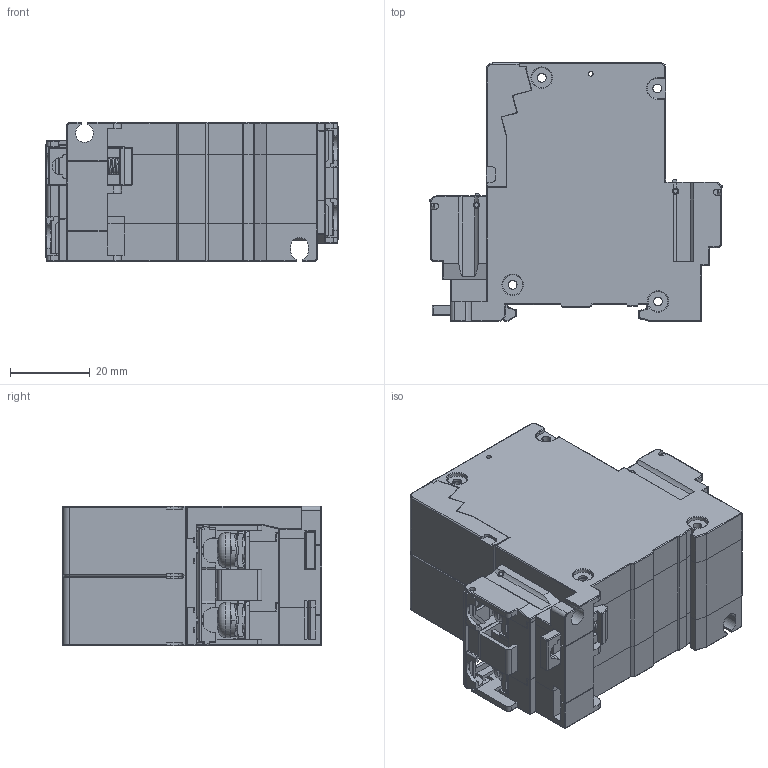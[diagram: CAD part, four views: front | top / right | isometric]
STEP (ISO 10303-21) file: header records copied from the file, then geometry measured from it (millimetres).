
FILE_DESCRIPTION (( 'STEP AP203' ), '1' );
FILE_NAME ('Total Ass''y(2P).STEP', '2018-06-27T00:34:56', ( '' ), ( '' ), 'SwSTEP 2.0', 'SolidWorks 2015', '' );
FILE_SCHEMA (( 'CONFIG_CONTROL_DESIGN' ));
Length unit declared in the file: millimetre
Products named in the file (20): Aux Handle(2P)(CP30DN6008); Self Up Screw(M5)(CP30DN 7305); Din Rail(CP30DN6006); Base(CP30DN6001); Load Terminal(CP30DN5005); Total Ass''y(2P); Din Rail Ass''y(CP30DN 4005); PH Swrew(M5X10); Wave Washer(M5); Dust Cover(CP30DN6014); Line Terminal Ass''y(CP30DN4001); Square Nut(M5)(CP30DN 7302); Terminal Cover(2P)(CP30DN 6011; Cover(CP30DN6002); Line Terminal(CP30DN5004); Din Rail Spring(CP30DN8001); 餌陝 Washer(M5); Handle(CP30DN6004); C-Base(CP30DN 6003); Fixed Contact Tip(CP30DN7202)_晦獄 撲薑
Assembly tree (30 placements, depth 3):
  Total Ass''y(2P)
    Base(CP30DN6001)
    Cover(CP30DN6002)
    Square Nut(M5)(CP30DN 7302)  x4
    Handle(CP30DN6004)  x2
    Line Terminal Ass''y(CP30DN4001)  x2
      Line Terminal(CP30DN5004)
      Fixed Contact Tip(CP30DN7202)_晦獄 撲薑
    Load Terminal(CP30DN5005)  x2
    Self Up Screw(M5)(CP30DN 7305)  x4
      PH Swrew(M5X10)
      餌陝 Washer(M5)
      Wave Washer(M5)
    Dust Cover(CP30DN6014)  x2
    C-Base(CP30DN 6003)
    Terminal Cover(2P)(CP30DN 6011  x2
    Aux Handle(2P)(CP30DN6008)
    Din Rail Ass''y(CP30DN 4005)
      Din Rail(CP30DN6006)
      Din Rail Spring(CP30DN8001)
Bounding box: 73.4 x 65.05 x 35 mm (x, y, z)
Volume: 42055.6 mm3; surface area: 64822.4 mm2
Topology: 34 solids, 35 shells, 4287 faces, 11767 edges, 7496 vertices
Faces by surface type: plane 2725, cylinder 1121, torus 167, sphere 118, cone 90, bspline 66
Entity records: 112216 total; most frequent: CARTESIAN_POINT 24833, ORIENTED_EDGE 18210, DIRECTION 17282, EDGE_CURVE 9105, LINE 6790, VECTOR 6790, VERTEX_POINT 5811, AXIS2_PLACEMENT_3D 5246
